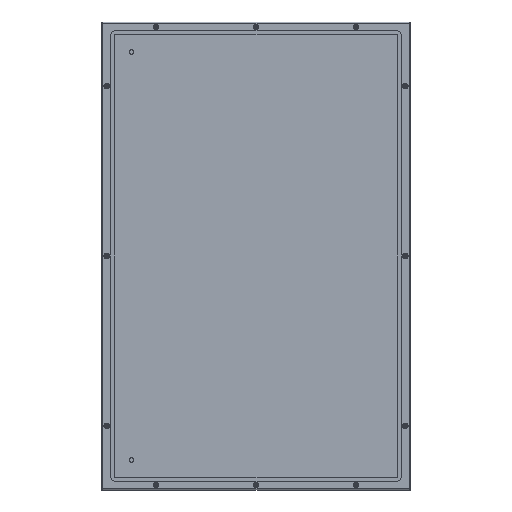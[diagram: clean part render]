
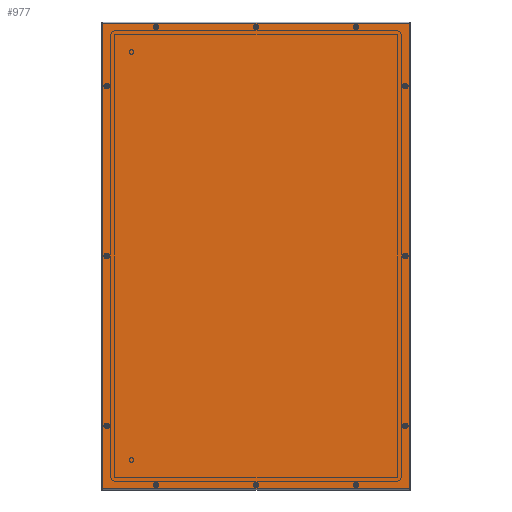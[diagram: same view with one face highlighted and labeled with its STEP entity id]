
A CAD part, left-side view. The second image highlights one B-rep face of the part: STEP entity #977.
In plain terms, the highlighted planar face has unit normal (-1, 0, 0) as drawn and (1, 0, 0) by its records, which use the part's own axes.
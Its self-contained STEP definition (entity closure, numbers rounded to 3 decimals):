
#977=ADVANCED_FACE('',(#2066,#2068,#2070,#2072,#2074,#2076,#2078,#2080,#2082,#2084,
#2086,#2088,#2090),#2092,.T.);
#2066=FACE_BOUND('',#2067,.T.);
#2067=EDGE_LOOP('',(#3903,#3904,#3905,#3906));
#2068=FACE_BOUND('',#2069,.T.);
#2069=EDGE_LOOP('',(#3907));
#2070=FACE_BOUND('',#2071,.T.);
#2071=EDGE_LOOP('',(#3908));
#2072=FACE_BOUND('',#2073,.T.);
#2073=EDGE_LOOP('',(#3909));
#2074=FACE_BOUND('',#2075,.T.);
#2075=EDGE_LOOP('',(#3910));
#2076=FACE_BOUND('',#2077,.T.);
#2077=EDGE_LOOP('',(#3911));
#2078=FACE_BOUND('',#2079,.T.);
#2079=EDGE_LOOP('',(#3912));
#2080=FACE_BOUND('',#2081,.T.);
#2081=EDGE_LOOP('',(#3913));
#2082=FACE_BOUND('',#2083,.T.);
#2083=EDGE_LOOP('',(#3914));
#2084=FACE_BOUND('',#2085,.T.);
#2085=EDGE_LOOP('',(#3915));
#2086=FACE_BOUND('',#2087,.T.);
#2087=EDGE_LOOP('',(#3916));
#2088=FACE_BOUND('',#2089,.T.);
#2089=EDGE_LOOP('',(#3917));
#2090=FACE_BOUND('',#2091,.T.);
#2091=EDGE_LOOP('',(#3918));
#2092=PLANE('',#2093);
#2093=AXIS2_PLACEMENT_3D('',#2094,#2095,#2096);
#2094=CARTESIAN_POINT('',(1.5,0.,0.));
#2095=DIRECTION('',(1.,0.,0.));
#2096=DIRECTION('',(0.,1.,0.));
#3903=ORIENTED_EDGE('',*,*,#4276,.T.);
#3904=ORIENTED_EDGE('',*,*,#4282,.T.);
#3905=ORIENTED_EDGE('',*,*,#4280,.T.);
#3906=ORIENTED_EDGE('',*,*,#4278,.T.);
#3907=ORIENTED_EDGE('',*,*,#4295,.T.);
#3908=ORIENTED_EDGE('',*,*,#4296,.T.);
#3909=ORIENTED_EDGE('',*,*,#4297,.T.);
#3910=ORIENTED_EDGE('',*,*,#4298,.T.);
#3911=ORIENTED_EDGE('',*,*,#4299,.T.);
#3912=ORIENTED_EDGE('',*,*,#4300,.T.);
#3913=ORIENTED_EDGE('',*,*,#4301,.T.);
#3914=ORIENTED_EDGE('',*,*,#4302,.T.);
#3915=ORIENTED_EDGE('',*,*,#4303,.T.);
#3916=ORIENTED_EDGE('',*,*,#4304,.T.);
#3917=ORIENTED_EDGE('',*,*,#4305,.T.);
#3918=ORIENTED_EDGE('',*,*,#4306,.T.);
#4276=EDGE_CURVE('',#4709,#4707,#4710,.T.);
#4278=EDGE_CURVE('',#4712,#4709,#4713,.T.);
#4280=EDGE_CURVE('',#4715,#4712,#4716,.T.);
#4282=EDGE_CURVE('',#4707,#4715,#4718,.T.);
#4295=EDGE_CURVE('',#4743,#4743,#4744,.F.);
#4296=EDGE_CURVE('',#4745,#4745,#4746,.F.);
#4297=EDGE_CURVE('',#4747,#4747,#4748,.F.);
#4298=EDGE_CURVE('',#4749,#4749,#4750,.F.);
#4299=EDGE_CURVE('',#4751,#4751,#4752,.F.);
#4300=EDGE_CURVE('',#4753,#4753,#4754,.F.);
#4301=EDGE_CURVE('',#4755,#4755,#4756,.F.);
#4302=EDGE_CURVE('',#4757,#4757,#4758,.F.);
#4303=EDGE_CURVE('',#4759,#4759,#4760,.F.);
#4304=EDGE_CURVE('',#4761,#4761,#4762,.F.);
#4305=EDGE_CURVE('',#4763,#4763,#4764,.F.);
#4306=EDGE_CURVE('',#4765,#4765,#4766,.T.);
#4707=VERTEX_POINT('',#5699);
#4709=VERTEX_POINT('',#5704);
#4710=LINE('',#5705,#5706);
#4712=VERTEX_POINT('',#5712);
#4713=LINE('',#5713,#5714);
#4715=VERTEX_POINT('',#5720);
#4716=LINE('',#5721,#5722);
#4718=LINE('',#5728,#5729);
#4743=VERTEX_POINT('',#5791);
#4744=CIRCLE('',#5792,6.954);
#4745=VERTEX_POINT('',#5796);
#4746=CIRCLE('',#5797,6.954);
#4747=VERTEX_POINT('',#5801);
#4748=CIRCLE('',#5802,6.954);
#4749=VERTEX_POINT('',#5806);
#4750=CIRCLE('',#5807,6.954);
#4751=VERTEX_POINT('',#5811);
#4752=CIRCLE('',#5812,6.954);
#4753=VERTEX_POINT('',#5816);
#4754=CIRCLE('',#5817,6.954);
#4755=VERTEX_POINT('',#5821);
#4756=CIRCLE('',#5822,6.954);
#4757=VERTEX_POINT('',#5826);
#4758=CIRCLE('',#5827,6.954);
#4759=VERTEX_POINT('',#5831);
#4760=CIRCLE('',#5832,6.954);
#4761=VERTEX_POINT('',#5836);
#4762=CIRCLE('',#5837,6.954);
#4763=VERTEX_POINT('',#5841);
#4764=CIRCLE('',#5842,6.954);
#4765=VERTEX_POINT('',#5846);
#4766=CIRCLE('',#5847,6.954);
#5699=CARTESIAN_POINT('',(1.5,-383.7,-582.7));
#5704=CARTESIAN_POINT('',(1.5,-383.7,582.7));
#5705=CARTESIAN_POINT('',(1.5,-383.7,582.7));
#5706=VECTOR('',#5707,1.);
#5707=DIRECTION('',(0.,0.,-1.));
#5712=CARTESIAN_POINT('',(1.5,383.7,582.7));
#5713=CARTESIAN_POINT('',(1.5,383.7,582.7));
#5714=VECTOR('',#5715,1.);
#5715=DIRECTION('',(0.,-1.,0.));
#5720=CARTESIAN_POINT('',(1.5,383.7,-582.7));
#5721=CARTESIAN_POINT('',(1.5,383.7,-582.7));
#5722=VECTOR('',#5723,1.);
#5723=DIRECTION('',(0.,0.,1.));
#5728=CARTESIAN_POINT('',(1.5,-383.7,-582.7));
#5729=VECTOR('',#5730,1.);
#5730=DIRECTION('',(0.,1.,0.));
#5791=CARTESIAN_POINT('',(1.5,6.954,-573.5));
#5792=AXIS2_PLACEMENT_3D('',#5793,#5794,#5795);
#5793=CARTESIAN_POINT('',(1.5,0.,-573.5));
#5794=DIRECTION('',(1.,0.,0.));
#5795=DIRECTION('',(0.,1.,0.));
#5796=CARTESIAN_POINT('',(1.5,6.954,573.5));
#5797=AXIS2_PLACEMENT_3D('',#5798,#5799,#5800);
#5798=CARTESIAN_POINT('',(1.5,0.,573.5));
#5799=DIRECTION('',(1.,0.,0.));
#5800=DIRECTION('',(0.,1.,0.));
#5801=CARTESIAN_POINT('',(1.5,256.954,573.5));
#5802=AXIS2_PLACEMENT_3D('',#5803,#5804,#5805);
#5803=CARTESIAN_POINT('',(1.5,250.,573.5));
#5804=DIRECTION('',(1.,0.,0.));
#5805=DIRECTION('',(0.,1.,0.));
#5806=CARTESIAN_POINT('',(1.5,256.954,-573.5));
#5807=AXIS2_PLACEMENT_3D('',#5808,#5809,#5810);
#5808=CARTESIAN_POINT('',(1.5,250.,-573.5));
#5809=DIRECTION('',(1.,0.,0.));
#5810=DIRECTION('',(0.,1.,0.));
#5811=CARTESIAN_POINT('',(1.5,-243.046,573.5));
#5812=AXIS2_PLACEMENT_3D('',#5813,#5814,#5815);
#5813=CARTESIAN_POINT('',(1.5,-250.,573.5));
#5814=DIRECTION('',(1.,0.,0.));
#5815=DIRECTION('',(0.,1.,0.));
#5816=CARTESIAN_POINT('',(1.5,-243.046,-573.5));
#5817=AXIS2_PLACEMENT_3D('',#5818,#5819,#5820);
#5818=CARTESIAN_POINT('',(1.5,-250.,-573.5));
#5819=DIRECTION('',(1.,0.,0.));
#5820=DIRECTION('',(0.,1.,0.));
#5821=CARTESIAN_POINT('',(1.5,380.454,0.));
#5822=AXIS2_PLACEMENT_3D('',#5823,#5824,#5825);
#5823=CARTESIAN_POINT('',(1.5,373.5,0.));
#5824=DIRECTION('',(1.,0.,0.));
#5825=DIRECTION('',(0.,1.,0.));
#5826=CARTESIAN_POINT('',(1.5,-366.546,0.));
#5827=AXIS2_PLACEMENT_3D('',#5828,#5829,#5830);
#5828=CARTESIAN_POINT('',(1.5,-373.5,0.));
#5829=DIRECTION('',(1.,0.,0.));
#5830=DIRECTION('',(0.,1.,0.));
#5831=CARTESIAN_POINT('',(1.5,380.454,425.));
#5832=AXIS2_PLACEMENT_3D('',#5833,#5834,#5835);
#5833=CARTESIAN_POINT('',(1.5,373.5,425.));
#5834=DIRECTION('',(1.,0.,0.));
#5835=DIRECTION('',(0.,1.,0.));
#5836=CARTESIAN_POINT('',(1.5,380.454,-425.));
#5837=AXIS2_PLACEMENT_3D('',#5838,#5839,#5840);
#5838=CARTESIAN_POINT('',(1.5,373.5,-425.));
#5839=DIRECTION('',(1.,0.,0.));
#5840=DIRECTION('',(0.,1.,0.));
#5841=CARTESIAN_POINT('',(1.5,-366.546,-425.));
#5842=AXIS2_PLACEMENT_3D('',#5843,#5844,#5845);
#5843=CARTESIAN_POINT('',(1.5,-373.5,-425.));
#5844=DIRECTION('',(1.,0.,0.));
#5845=DIRECTION('',(0.,1.,0.));
#5846=CARTESIAN_POINT('',(1.5,-366.546,425.));
#5847=AXIS2_PLACEMENT_3D('',#5848,#5849,#5850);
#5848=CARTESIAN_POINT('',(1.5,-373.5,425.));
#5849=DIRECTION('',(-1.,0.,0.));
#5850=DIRECTION('',(0.,1.,0.));
